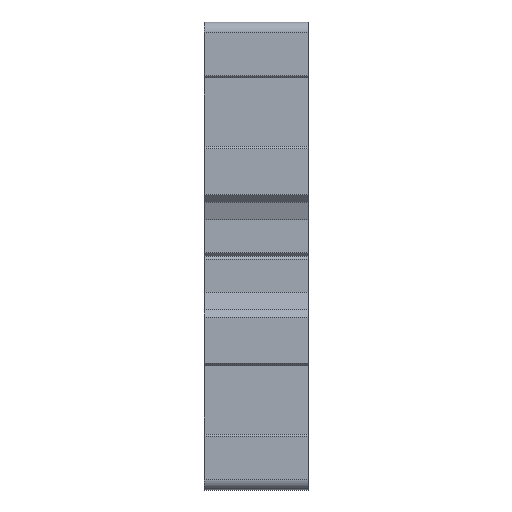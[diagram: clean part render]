
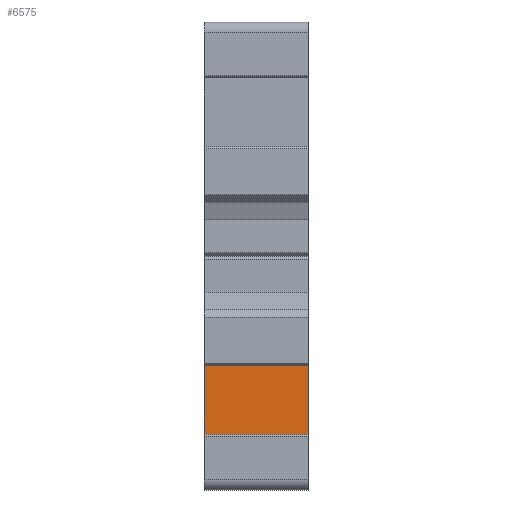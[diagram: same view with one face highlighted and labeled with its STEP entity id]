
A CAD part, left-side view. The second image highlights one B-rep face of the part: STEP entity #6575.
In plain terms, the highlighted planar face has unit normal (-1, 0, 0).
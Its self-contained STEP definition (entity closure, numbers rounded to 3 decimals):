
#462=DIRECTION('',(0.,0.,-1.));
#463=VECTOR('',#462,6.6);
#464=CARTESIAN_POINT('',(-22.3,0.,-10.53));
#465=LINE('',#464,#463);
#1548=DIRECTION('',(0.,0.,-1.));
#1549=VECTOR('',#1548,6.6);
#1550=CARTESIAN_POINT('',(-22.3,10.,-10.53));
#1551=LINE('',#1550,#1549);
#2419=DIRECTION('',(0.,1.,0.));
#2420=VECTOR('',#2419,10.);
#2421=CARTESIAN_POINT('',(-22.3,0.,-10.53));
#2422=LINE('',#2421,#2420);
#2423=DIRECTION('',(0.,1.,0.));
#2424=VECTOR('',#2423,10.);
#2425=CARTESIAN_POINT('',(-22.3,0.,-17.13));
#2426=LINE('',#2425,#2424);
#3106=CARTESIAN_POINT('',(-22.3,0.,-10.53));
#3108=VERTEX_POINT('',#3106);
#3109=CARTESIAN_POINT('',(-22.3,0.,-17.13));
#3110=VERTEX_POINT('',#3109);
#3170=CARTESIAN_POINT('',(-22.3,10.,-10.53));
#3172=VERTEX_POINT('',#3170);
#3173=CARTESIAN_POINT('',(-22.3,10.,-17.13));
#3174=VERTEX_POINT('',#3173);
#6563=CARTESIAN_POINT('',(-22.3,0.,-10.53));
#6564=DIRECTION('',(1.,0.,0.));
#6565=DIRECTION('',(0.,0.,-1.));
#6566=AXIS2_PLACEMENT_3D('',#6563,#6564,#6565);
#6567=PLANE('',#6566);
#6568=ORIENTED_EDGE('',*,*,#3388,.T.);
#6570=ORIENTED_EDGE('',*,*,#6569,.T.);
#6571=ORIENTED_EDGE('',*,*,#4178,.F.);
#6572=ORIENTED_EDGE('',*,*,#6556,.F.);
#6573=EDGE_LOOP('',(#6568,#6570,#6571,#6572));
#6574=FACE_OUTER_BOUND('',#6573,.F.);
#6575=ADVANCED_FACE('',(#6574),#6567,.F.);
#3388=EDGE_CURVE('',#3108,#3110,#465,.T.);
#4178=EDGE_CURVE('',#3172,#3174,#1551,.T.);
#6556=EDGE_CURVE('',#3108,#3172,#2422,.T.);
#6569=EDGE_CURVE('',#3110,#3174,#2426,.T.);
